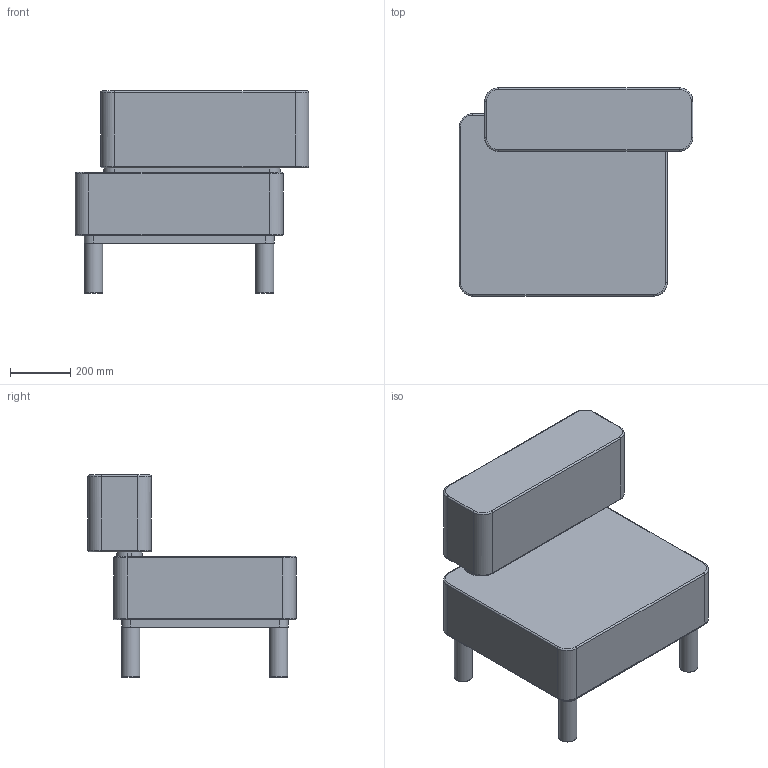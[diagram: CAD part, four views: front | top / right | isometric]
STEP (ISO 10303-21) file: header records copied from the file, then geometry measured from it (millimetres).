
FILE_DESCRIPTION(/* description */ (''),/* implementation_level */ '2;1');
FILE_NAME(/* name */ 'kinoshita_coccole_c464-l',/* time_stamp */ '2026-05-17T00:46:50+09:00',/* author */ (''),/* organization */ (''),/* preprocessor_version */ 'ST-DEVELOPER v16.5',/* originating_system */ '',/* authorisation */ '');
FILE_SCHEMA (('AUTOMOTIVE_DESIGN'));
Length unit declared in the file: millimetre
Products named in the file (1): Document
Bounding box: 775 x 690 x 670 mm (x, y, z)
Volume: 134856508.6 mm3; surface area: 3059486.4 mm2
Topology: 4 solids, 4 shells, 92 faces, 196 edges, 116 vertices
Faces by surface type: bspline 64, plane 28
Entity records: 3157 total; most frequent: CARTESIAN_POINT 1934, ORIENTED_EDGE 392, EDGE_CURVE 196, VERTEX_POINT 116, EDGE_LOOP 96, ADVANCED_FACE 92, FACE_OUTER_BOUND 92, B_SPLINE_CURVE_WITH_KNOTS 84
